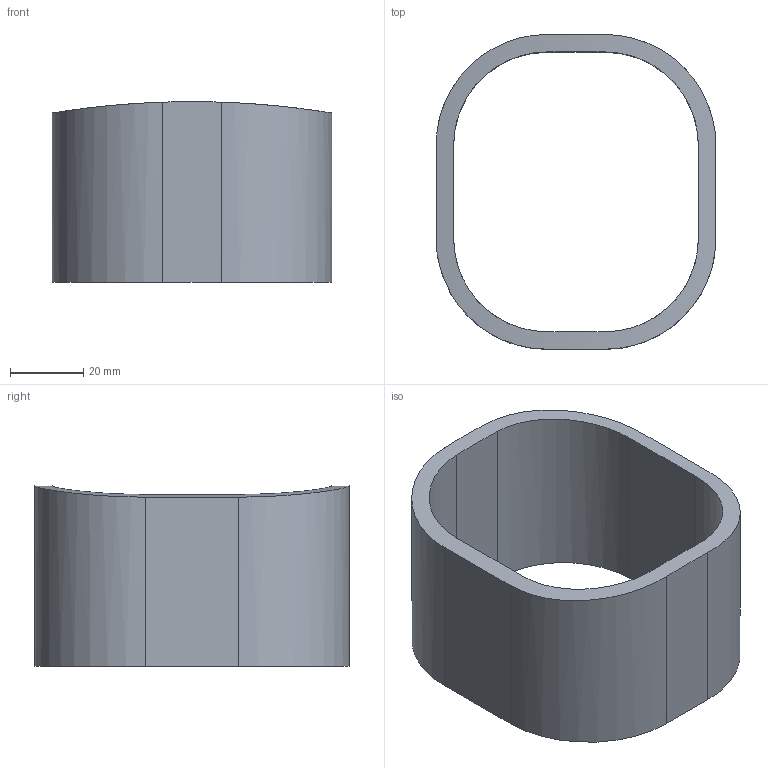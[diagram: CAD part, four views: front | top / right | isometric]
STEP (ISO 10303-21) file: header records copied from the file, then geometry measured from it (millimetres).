
FILE_DESCRIPTION(/* description */ ('Alibre Inc.'),/* implementation_level */ '2;1');
FILE_NAME(/* name */ 'export0',/* time_stamp */ '2013-03-05T19:52:47-05:00',/* author */ (''),/* organization */ (''),/* preprocessor_version */ 'ST-DEVELOPER v14',/* originating_system */ 'Alibre',/* authorisation */ '');
FILE_SCHEMA (('CONFIG_CONTROL_DESIGN'));
Length unit declared in the file: centimetre
Products named in the file (1): ID_1
Bounding box: 76.2 x 85.72 x 49.21 mm (x, y, z)
Volume: 58299.6 mm3; surface area: 26934.3 mm2
Topology: 1 solids, 1 shells, 18 faces, 48 edges, 32 vertices
Faces by surface type: cylinder 9, plane 9
Entity records: 800 total; most frequent: CARTESIAN_POINT 270, ORIENTED_EDGE 96, DIRECTION 79, EDGE_CURVE 48, VERTEX_POINT 32, AXIS2_PLACEMENT_3D 30, VECTOR 28, LINE 28
